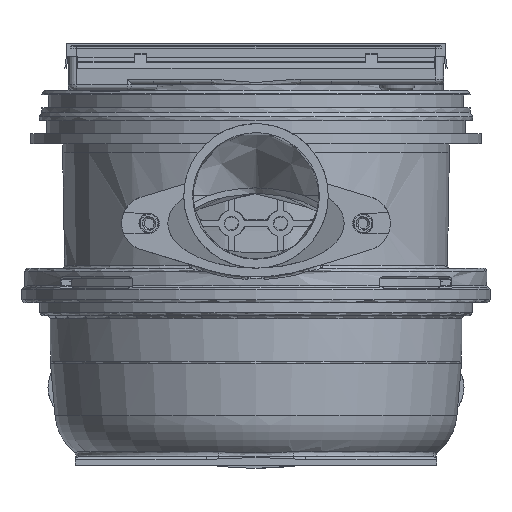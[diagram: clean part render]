
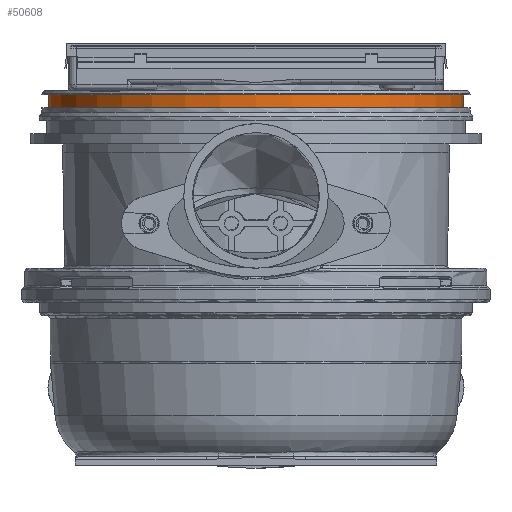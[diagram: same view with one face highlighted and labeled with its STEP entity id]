
A CAD part, left-side view. The second image highlights one B-rep face of the part: STEP entity #50608.
In plain terms, the highlighted cylindrical face has radius 71.9 mm (diameter 143.8 mm), a full revolution.
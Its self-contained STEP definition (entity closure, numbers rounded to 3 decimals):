
#4464=FACE_BOUND('',#10787,.T.);
#5006=CIRCLE('',#53710,71.9);
#5007=CIRCLE('',#53712,71.9);
#6397=CYLINDRICAL_SURFACE('',#53711,71.9);
#7820=FACE_OUTER_BOUND('',#10786,.T.);
#10786=EDGE_LOOP('',(#36730));
#10787=EDGE_LOOP('',(#36731));
#20674=VERTEX_POINT('',#124305);
#20675=VERTEX_POINT('',#124308);
#26376=EDGE_CURVE('',#20674,#20674,#5006,.T.);
#26377=EDGE_CURVE('',#20675,#20675,#5007,.T.);
#36730=ORIENTED_EDGE('',*,*,#26377,.F.);
#36731=ORIENTED_EDGE('',*,*,#26376,.T.);
#50608=ADVANCED_FACE('',(#7820,#4464),#6397,.T.);
#53710=AXIS2_PLACEMENT_3D('',#124306,#60179,#60180);
#53711=AXIS2_PLACEMENT_3D('',#124307,#60181,#60182);
#53712=AXIS2_PLACEMENT_3D('',#124309,#60183,#60184);
#60179=DIRECTION('center_axis',(0.,-1.,0.));
#60180=DIRECTION('ref_axis',(0.,0.,1.));
#60181=DIRECTION('center_axis',(0.,-1.,0.));
#60182=DIRECTION('ref_axis',(0.,0.,1.));
#60183=DIRECTION('center_axis',(0.,-1.,0.));
#60184=DIRECTION('ref_axis',(0.,0.,1.));
#124305=CARTESIAN_POINT('',(0.,73.45,-71.9));
#124306=CARTESIAN_POINT('Origin',(0.,73.45,0.));
#124307=CARTESIAN_POINT('Origin',(0.,37.,0.));
#124308=CARTESIAN_POINT('',(0.,69.05,-71.9));
#124309=CARTESIAN_POINT('Origin',(0.,69.05,0.));
